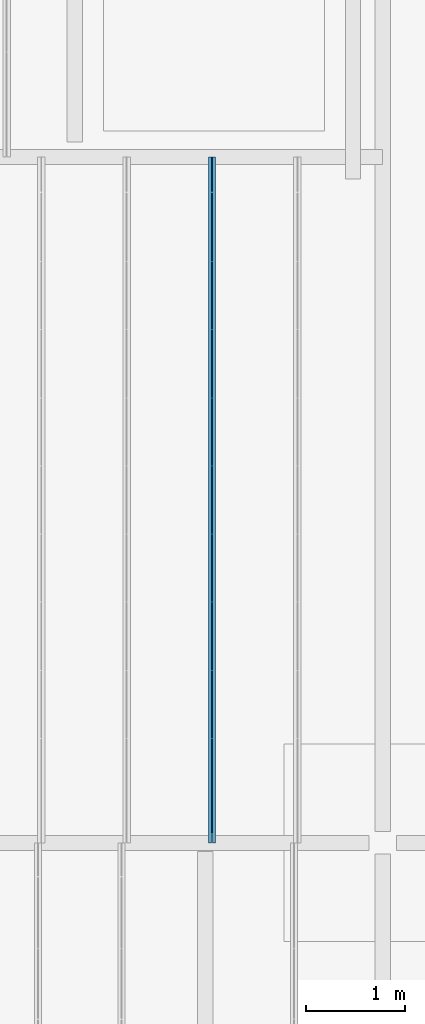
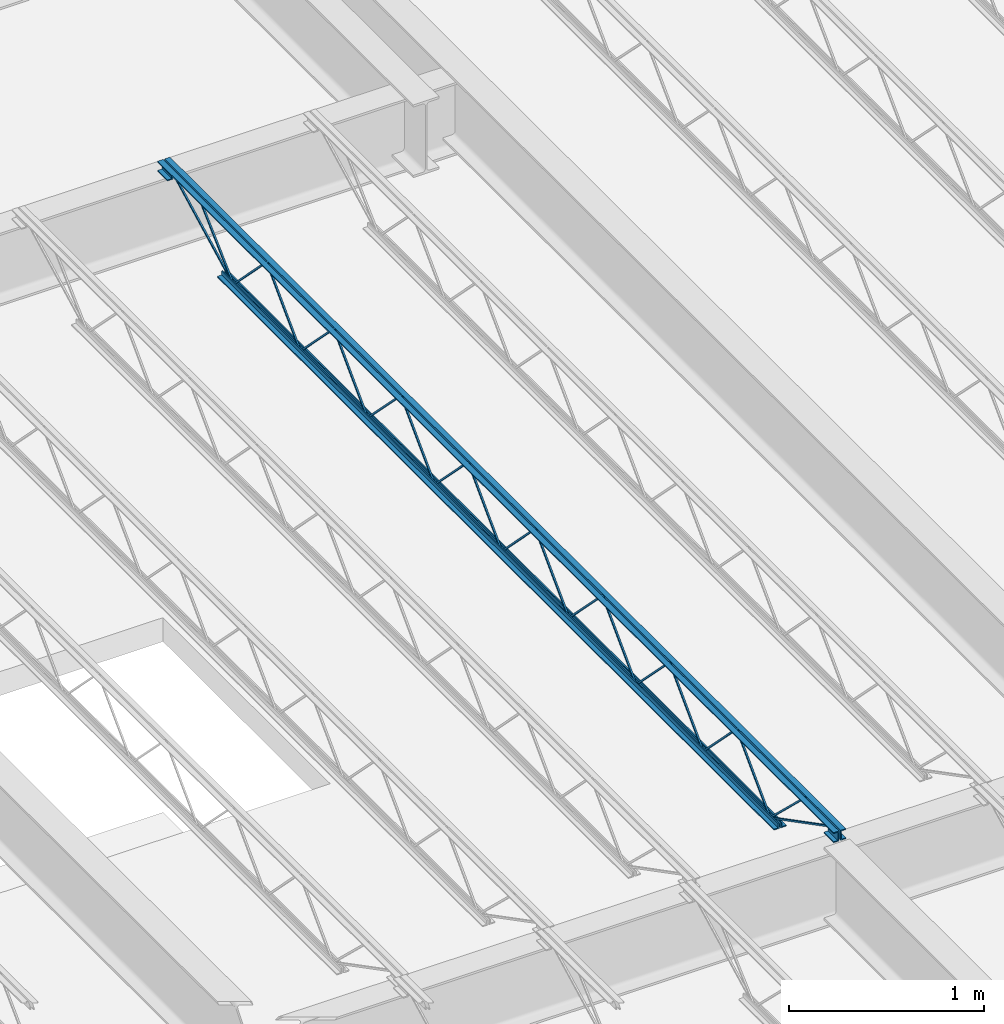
# One storey, part 27 of 75: 1 beam.
"""IFC2X3 building model written with IfcOpenShell, lengths in metres."""

from ifc_helpers import new_model, entity, si_unit, converted_unit, frame, origin, place, context, project, spatial, face_set, surface_model, element, save


model = new_model("IFC2X3")

# Units and contexts
model_context = context("Model", 3, precision=1e-09, world=origin())
plan_context = context("Plan", 3, precision=1e-09, world=origin())
ifc_project = project(units=[si_unit("LENGTHUNIT", "METRE"), si_unit("AREAUNIT", "SQUARE_METRE"), si_unit("VOLUMEUNIT", "CUBIC_METRE"), converted_unit("PLANEANGLEUNIT", "DEGREE", entity("IfcRatioMeasure", 0.01745329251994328), si_unit("PLANEANGLEUNIT", "RADIAN"), dimensions=[0, 0, 0, 0, 0, 0, 0]), si_unit("TIMEUNIT", "SECOND")], contexts=[model_context, plan_context])

# Site, building, storey
site_placement = place(None, origin())
site = spatial("IfcSite", under=ifc_project, at=site_placement, Name="Default", CompositionType="ELEMENT")
building_placement = place(site_placement, origin())
building = spatial("IfcBuilding", under=site, at=building_placement, CompositionType="ELEMENT")
storey_placement = place(building_placement, origin())
storey = spatial("IfcBuildingStorey", under=building, at=storey_placement, Name="First Floor", CompositionType="ELEMENT", Elevation=-3.531500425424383e-13)

# Beam
beam_placement = place(storey_placement, frame((-16.64339999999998, 18.61003029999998, 4.112000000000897), z_axis=(0.0, 0.0, 1.0), x_axis=(-1.0, 0.0, 0.0)))
element("IfcBeam", 1, at=beam_placement, inside=storey, Name="M_K-Series Bar Joist-Rod Web:14K1:14K1", ObjectType="M_K-Series Bar Joist-Rod Web:14K1", context=model_context, shape_type="SurfaceModel", body=[
    surface_model("IfcFaceBasedSurfaceModel", [(-0.03200000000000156, -2.08975000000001, 0.01110000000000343), (-0.04149999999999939, -2.08975000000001, 0.01110000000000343), (-0.04149999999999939, -2.08975000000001, 0.001600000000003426), (-0.03200000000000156, -2.08975000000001, 0.001600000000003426), (-0.04150000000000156, -2.088563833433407, 0.01110000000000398), (-0.03200000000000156, -2.088563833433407, 0.01110000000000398), (-0.0414999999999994, -2.084586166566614, 0.001600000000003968), (-0.04149999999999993, -1.746498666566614, 0.3449000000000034), (-0.04149999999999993, -1.744126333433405, 0.3449000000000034), (-0.04150000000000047, -1.40603883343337, 0.001600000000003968), (-0.04150000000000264, -1.400875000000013, 0.001600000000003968), (-0.04150000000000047, -1.400875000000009, 0.01110000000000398), (-0.04150000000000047, -1.402061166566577, 0.01110000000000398), (-0.04149999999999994, -1.740148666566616, 0.3544000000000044), (-0.04149999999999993, -1.750476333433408, 0.3544000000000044), (-0.0319999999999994, -2.084586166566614, 0.001600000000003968), (-0.03200000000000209, -1.746498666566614, 0.3449000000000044), (-0.0320000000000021, -1.744126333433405, 0.3449000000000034), (-0.03200000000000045, -1.40603883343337, 0.001600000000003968), (-0.03200000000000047, -1.400875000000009, 0.001600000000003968), (-0.03200000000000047, -1.400875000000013, 0.01110000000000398), (-0.03200000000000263, -1.402061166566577, 0.01110000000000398), (-0.0320000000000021, -1.740148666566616, 0.3544000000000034), (-0.03200000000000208, -1.750476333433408, 0.3544000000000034), (-0.03200000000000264, -2.778625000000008, 0.01110000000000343), (-0.04150000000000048, -2.778625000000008, 0.01110000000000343), (-0.04150000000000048, -2.778625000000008, 0.001600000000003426), (-0.03200000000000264, -2.778625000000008, 0.001600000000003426), (-0.04150000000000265, -2.777438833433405, 0.01110000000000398), (-0.03200000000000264, -2.777438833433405, 0.01110000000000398), (-0.04149999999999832, -2.773461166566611, 0.001600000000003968), (-0.04149999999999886, -2.435373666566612, 0.3449000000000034), (-0.04149999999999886, -2.433001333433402, 0.3449000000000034), (-0.04149999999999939, -2.094913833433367, 0.001600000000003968), (-0.04150000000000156, -2.089750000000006, 0.001600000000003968), (-0.04150000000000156, -2.089750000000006, 0.01110000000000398), (-0.04150000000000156, -2.090936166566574, 0.01110000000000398), (-0.04150000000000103, -2.429023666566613, 0.3544000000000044), (-0.04150000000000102, -2.439351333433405, 0.3544000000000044), (-0.03200000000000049, -2.773461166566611, 0.001600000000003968), (-0.03200000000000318, -2.435373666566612, 0.3449000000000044), (-0.03200000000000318, -2.433001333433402, 0.3449000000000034), (-0.03200000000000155, -2.094913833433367, 0.001600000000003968), (-0.03200000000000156, -2.089750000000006, 0.001600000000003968), (-0.03199999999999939, -2.089750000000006, 0.01110000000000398), (-0.03200000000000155, -2.090936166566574, 0.01110000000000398), (-0.03200000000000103, -2.429023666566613, 0.3544000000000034), (-0.03200000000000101, -2.439351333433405, 0.3544000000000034), (-0.03200000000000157, -3.467500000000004, 0.01110000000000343), (-0.04149999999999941, -3.467500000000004, 0.01110000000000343), (-0.04149999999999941, -3.467500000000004, 0.001600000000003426), (-0.03200000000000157, -3.467500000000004, 0.001600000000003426), (-0.04150000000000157, -3.466313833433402, 0.01110000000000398), (-0.03200000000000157, -3.466313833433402, 0.01110000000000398), (-0.04149999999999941, -3.462336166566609, 0.001600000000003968), (-0.04149999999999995, -3.124248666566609, 0.3449000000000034), (-0.04149999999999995, -3.121876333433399, 0.3449000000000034), (-0.04150000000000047, -2.783788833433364, 0.001600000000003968), (-0.04150000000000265, -2.778625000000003, 0.001600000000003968), (-0.04150000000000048, -2.778625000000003, 0.01110000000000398), (-0.04150000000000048, -2.779811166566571, 0.01110000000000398), (-0.04149999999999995, -3.11789866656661, 0.3544000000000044), (-0.04149999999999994, -3.128226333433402, 0.3544000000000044), (-0.03199999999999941, -3.462336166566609, 0.001600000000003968), (-0.0320000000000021, -3.124248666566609, 0.3449000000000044), (-0.03200000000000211, -3.121876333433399, 0.3449000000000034), (-0.03200000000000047, -2.783788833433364, 0.001600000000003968), (-0.03200000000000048, -2.778625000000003, 0.001600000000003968), (-0.03200000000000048, -2.778625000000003, 0.01110000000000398), (-0.03200000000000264, -2.779811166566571, 0.01110000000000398), (-0.03200000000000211, -3.11789866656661, 0.3544000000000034), (-0.0320000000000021, -3.128226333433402, 0.3544000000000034), (-0.03200000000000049, -4.156375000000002, 0.01110000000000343), (-0.04149999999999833, -4.156375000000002, 0.01110000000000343), (-0.04149999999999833, -4.156375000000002, 0.001600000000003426), (-0.03200000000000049, -4.156375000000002, 0.001600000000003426), (-0.0415000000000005, -4.155188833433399, 0.01110000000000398), (-0.03200000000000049, -4.155188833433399, 0.01110000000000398), (-0.04149999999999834, -4.151211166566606, 0.001600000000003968), (-0.04149999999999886, -3.813123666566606, 0.3449000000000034), (-0.04149999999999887, -3.810751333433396, 0.3449000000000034), (-0.0414999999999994, -3.472663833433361, 0.001600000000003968), (-0.04150000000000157, -3.4675, 0.001600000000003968), (-0.04149999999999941, -3.4675, 0.01110000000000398), (-0.04149999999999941, -3.468686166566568, 0.01110000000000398), (-0.04149999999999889, -3.806773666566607, 0.3544000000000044), (-0.04149999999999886, -3.817101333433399, 0.3544000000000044), (-0.03199999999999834, -4.151211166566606, 0.001600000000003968), (-0.03200000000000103, -3.813123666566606, 0.3449000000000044), (-0.03200000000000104, -3.810751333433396, 0.3449000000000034), (-0.03199999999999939, -3.472663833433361, 0.001600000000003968), (-0.0319999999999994, -3.4675, 0.001600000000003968), (-0.0319999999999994, -3.4675, 0.01110000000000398), (-0.03200000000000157, -3.468686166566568, 0.01110000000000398), (-0.03200000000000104, -3.806773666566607, 0.3544000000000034), (-0.03200000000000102, -3.817101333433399, 0.3544000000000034), (-0.03200000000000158, -4.845249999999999, 0.01110000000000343), (-0.04149999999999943, -4.845249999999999, 0.01110000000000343), (-0.04149999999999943, -4.845249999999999, 0.001600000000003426), (-0.03200000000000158, -4.845249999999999, 0.001600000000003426), (-0.04150000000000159, -4.844063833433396, 0.01110000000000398), (-0.03200000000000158, -4.844063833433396, 0.01110000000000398), (-0.04149999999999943, -4.840086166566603, 0.001600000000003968), (-0.04149999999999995, -4.501998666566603, 0.3449000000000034), (-0.04149999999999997, -4.499626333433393, 0.3449000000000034), (-0.04150000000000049, -4.161538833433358, 0.001600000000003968), (-0.0415000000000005, -4.156374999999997, 0.001600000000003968), (-0.0415000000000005, -4.156374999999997, 0.01110000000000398), (-0.0415000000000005, -4.157561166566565, 0.01110000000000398), (-0.04149999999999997, -4.495648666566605, 0.3544000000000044), (-0.04149999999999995, -4.505976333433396, 0.3544000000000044), (-0.03199999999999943, -4.840086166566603, 0.001600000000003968), (-0.03200000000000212, -4.501998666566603, 0.3449000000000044), (-0.03200000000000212, -4.499626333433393, 0.3449000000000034), (-0.03200000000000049, -4.161538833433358, 0.001600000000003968), (-0.03200000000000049, -4.156374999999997, 0.001600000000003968), (-0.03199999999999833, -4.156374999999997, 0.01110000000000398), (-0.03200000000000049, -4.157561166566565, 0.01110000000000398), (-0.03200000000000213, -4.495648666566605, 0.3544000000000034), (-0.03200000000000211, -4.505976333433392, 0.3544000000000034), (-0.03200000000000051, -5.534124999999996, 0.01110000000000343), (-0.04149999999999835, -5.534124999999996, 0.01110000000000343), (-0.04149999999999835, -5.534124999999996, 0.001600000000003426), (-0.03200000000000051, -5.534124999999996, 0.001600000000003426), (-0.04150000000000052, -5.532938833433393, 0.01110000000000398), (-0.03200000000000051, -5.532938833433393, 0.01110000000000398), (-0.04149999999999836, -5.5289611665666, 0.001600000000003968), (-0.04149999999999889, -5.1908736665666, 0.3449000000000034), (-0.04149999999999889, -5.188501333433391, 0.3449000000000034), (-0.04149999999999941, -4.850413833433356, 0.001600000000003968), (-0.04150000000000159, -4.845249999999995, 0.001600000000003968), (-0.04149999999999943, -4.845249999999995, 0.01110000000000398), (-0.04149999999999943, -4.846436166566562, 0.01110000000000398), (-0.04149999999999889, -5.184523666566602, 0.3544000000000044), (-0.04149999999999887, -5.194851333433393, 0.3544000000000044), (-0.03199999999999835, -5.5289611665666, 0.001600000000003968), (-0.03200000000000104, -5.1908736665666, 0.3449000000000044), (-0.03200000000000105, -5.188501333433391, 0.3449000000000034), (-0.03199999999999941, -4.850413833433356, 0.001600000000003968), (-0.03199999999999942, -4.845249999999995, 0.001600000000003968), (-0.03199999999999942, -4.845249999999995, 0.01110000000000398), (-0.03200000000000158, -4.846436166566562, 0.01110000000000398), (-0.03200000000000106, -5.184523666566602, 0.3544000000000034), (-0.03200000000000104, -5.194851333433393, 0.3544000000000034), (-0.0320000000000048, -1.400875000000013, 0.01109999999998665), (-0.04150000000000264, -1.400875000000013, 0.01109999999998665), (-0.04150000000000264, -1.400875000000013, 0.001599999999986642), (-0.0320000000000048, -1.400875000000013, 0.001599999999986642), (-0.04150000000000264, -1.39968883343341, 0.01109999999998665), (-0.03200000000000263, -1.39968883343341, 0.01109999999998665), (-0.04150000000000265, -1.395711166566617, 0.001599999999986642), (-0.04150000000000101, -1.057623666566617, 0.3448999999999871), (-0.04150000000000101, -1.055251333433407, 0.3448999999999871), (-0.04150000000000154, -0.7171638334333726, 0.001599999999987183), (-0.04150000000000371, -0.7120000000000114, 0.001599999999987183), (-0.04150000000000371, -0.7120000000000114, 0.01109999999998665), (-0.04150000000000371, -0.7131861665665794, 0.01109999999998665), (-0.04150000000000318, -1.051273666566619, 0.3543999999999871), (-0.04150000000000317, -1.06160133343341, 0.3543999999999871), (-0.03200000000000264, -1.395711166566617, 0.001599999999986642), (-0.03200000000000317, -1.057623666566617, 0.3448999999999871), (-0.03200000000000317, -1.055251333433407, 0.3448999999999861), (-0.03200000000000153, -0.7171638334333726, 0.001599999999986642), (-0.03200000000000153, -0.7120000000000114, 0.001599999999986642), (-0.03200000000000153, -0.7120000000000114, 0.01109999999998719), (-0.03200000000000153, -0.7131861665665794, 0.01109999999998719), (-0.03200000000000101, -1.051273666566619, 0.3543999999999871), (-0.03200000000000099, -1.06160133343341, 0.3543999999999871), (-0.0320000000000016, -6.222999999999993, 0.01110000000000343), (-0.04149999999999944, -6.222999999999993, 0.01110000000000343), (-0.04149999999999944, -6.222999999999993, 0.001600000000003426), (-0.0320000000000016, -6.222999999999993, 0.001600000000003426), (-0.04150000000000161, -6.221813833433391, 0.01110000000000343), (-0.0320000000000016, -6.221813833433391, 0.01110000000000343), (-0.04149999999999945, -6.217836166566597, 0.001600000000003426), (-0.04149999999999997, -5.879748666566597, 0.3449000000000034), (-0.04149999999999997, -5.877376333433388, 0.3449000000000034), (-0.04149999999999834, -5.539288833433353, 0.001600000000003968), (-0.04150000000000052, -5.534124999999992, 0.001600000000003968), (-0.04150000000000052, -5.534124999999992, 0.01110000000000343), (-0.04150000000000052, -5.53531116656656, 0.01110000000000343), (-0.04149999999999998, -5.873398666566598, 0.3544000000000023), (-0.04149999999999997, -5.883726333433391, 0.3544000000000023), (-0.03199999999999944, -6.217836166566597, 0.001600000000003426), (-0.03200000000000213, -5.879748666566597, 0.3449000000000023), (-0.03200000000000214, -5.877376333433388, 0.3449000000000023), (-0.0320000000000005, -5.539288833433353, 0.001600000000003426), (-0.03200000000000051, -5.534124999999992, 0.001600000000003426), (-0.03199999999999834, -5.534124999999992, 0.01110000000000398), (-0.03200000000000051, -5.53531116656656, 0.01110000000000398), (-0.03200000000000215, -5.873398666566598, 0.3544000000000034), (-0.03200000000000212, -5.883726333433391, 0.3544000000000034), (-0.04150000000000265, 0.0, 0.3559999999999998), (-0.07350000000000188, 0.0, 0.3559999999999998), (-0.07350000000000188, 0.0, 0.349499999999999), (-0.04800000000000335, 0.0, 0.349499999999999), (-0.04800000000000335, 0.0, 0.3239999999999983), (-0.04150000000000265, 0.0, 0.3239999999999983), (-0.03200000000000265, 0.0, 0.3559999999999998), (-0.03200000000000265, 0.0, 0.3239999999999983), (-0.02550000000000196, 0.0, 0.3239999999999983), (-0.02550000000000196, 0.0, 0.349499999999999), (0.0, 0.0, 0.349499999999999), (0.0, 0.0, 0.3559999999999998), (-0.04150000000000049, -6.934999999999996, 0.3559999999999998), (-0.07349999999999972, -6.934999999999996, 0.3559999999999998), (-0.07349999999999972, -6.934999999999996, 0.349499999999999), (-0.04800000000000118, -6.934999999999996, 0.349499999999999), (-0.04800000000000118, -6.934999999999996, 0.3239999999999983), (-0.04150000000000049, -6.934999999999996, 0.3239999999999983), (-0.03200000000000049, -6.934999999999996, 0.3559999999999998), (-0.03200000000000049, -6.934999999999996, 0.3239999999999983), (-0.02549999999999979, -6.934999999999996, 0.3239999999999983), (-0.02549999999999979, -6.934999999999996, 0.349499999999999), (0.0, -6.934999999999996, 0.349499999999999), (0.0, -6.934999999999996, 0.3559999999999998), (-0.03200000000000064, -6.83500000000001, 0.2924999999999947), (0.0, -6.83500000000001, 0.2924999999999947), (0.0, -6.83500000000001, 0.2989999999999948), (-0.02549999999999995, -6.83500000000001, 0.2989999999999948), (-0.02549999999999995, -6.83500000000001, 0.3239999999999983), (-0.03200000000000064, -6.83500000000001, 0.3239999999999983), (-0.07349999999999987, -6.83500000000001, 0.2924999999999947), (-0.04150000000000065, -6.83500000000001, 0.2924999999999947), (-0.04150000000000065, -6.83500000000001, 0.3239999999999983), (-0.04800000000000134, -6.83500000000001, 0.3239999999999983), (-0.04800000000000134, -6.83500000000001, 0.2989999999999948), (-0.07349999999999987, -6.83500000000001, 0.2989999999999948), (-0.03200000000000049, -6.934999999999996, 0.2924999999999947), (0.0, -6.934999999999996, 0.2924999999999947), (0.0, -6.934999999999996, 0.2989999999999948), (-0.02549999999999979, -6.934999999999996, 0.2989999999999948), (-0.07349999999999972, -6.934999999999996, 0.2924999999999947), (-0.04150000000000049, -6.934999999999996, 0.2924999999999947), (-0.04800000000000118, -6.934999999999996, 0.2989999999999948), (-0.07349999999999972, -6.934999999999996, 0.2989999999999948), (-0.04150000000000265, 0.0, 0.2924999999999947), (-0.04800000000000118, 0.0, 0.3239999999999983), (-0.04800000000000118, 0.0, 0.2989999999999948), (-0.07350000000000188, 0.0, 0.2989999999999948), (-0.07350000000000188, 0.0, 0.2924999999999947), (-0.03200000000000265, 0.0, 0.2924999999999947), (0.0, 0.0, 0.2924999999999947), (0.0, 0.0, 0.2989999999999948), (-0.02550000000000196, 0.0, 0.2989999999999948), (-0.0415000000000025, -0.0999999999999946, 0.2924999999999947), (-0.0415000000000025, -0.0999999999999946, 0.3239999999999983), (-0.04800000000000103, -0.0999999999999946, 0.3239999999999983), (-0.04800000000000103, -0.0999999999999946, 0.2989999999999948), (-0.07350000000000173, -0.0999999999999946, 0.2989999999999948), (-0.07350000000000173, -0.0999999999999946, 0.2924999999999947), (-0.03200000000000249, -0.0999999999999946, 0.2924999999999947), (0.0, -0.0999999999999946, 0.2924999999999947), (0.0, -0.0999999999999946, 0.2989999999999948), (-0.02550000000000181, -0.0999999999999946, 0.2989999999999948), (-0.02550000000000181, -0.0999999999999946, 0.3239999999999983), (-0.03200000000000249, -0.0999999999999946, 0.3239999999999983), (-0.0415000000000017, -0.6119999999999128, 0.0), (-0.0415000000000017, -0.6119999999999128, 0.03199999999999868), (-0.04800000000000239, -0.6119999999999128, 0.03199999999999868), (-0.04800000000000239, -0.6119999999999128, 0.006499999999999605), (-0.07350000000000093, -0.6119999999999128, 0.006499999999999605), (-0.07350000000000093, -0.6119999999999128, 0.0), (-0.03200000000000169, -0.6119999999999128, 0.0), (0.0, -0.6119999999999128, 0.0), (0.0, -0.6119999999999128, 0.006499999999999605), (-0.02550000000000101, -0.6119999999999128, 0.006499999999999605), (-0.02550000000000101, -0.6119999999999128, 0.03199999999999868), (-0.03200000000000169, -0.6119999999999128, 0.03199999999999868), (-0.04150000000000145, -6.322999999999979, 0.0), (-0.04150000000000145, -6.322999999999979, 0.03199999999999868), (-0.04800000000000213, -6.322999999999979, 0.03199999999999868), (-0.04800000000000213, -6.322999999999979, 0.006499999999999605), (-0.07350000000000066, -6.322999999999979, 0.006499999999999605), (-0.07350000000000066, -6.322999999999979, 0.0), (-0.03200000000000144, -6.322999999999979, 0.0), (0.0, -6.322999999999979, 0.0), (0.0, -6.322999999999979, 0.006499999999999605), (-0.02550000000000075, -6.322999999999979, 0.006499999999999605), (-0.02550000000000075, -6.322999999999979, 0.03199999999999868), (-0.03200000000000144, -6.322999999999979, 0.03199999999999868), (-0.03199999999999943, -6.220811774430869, 0.01056594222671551), (-0.04149999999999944, -6.220811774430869, 0.01056594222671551), (-0.04149999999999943, -6.225188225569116, 0.002134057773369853), (-0.03200000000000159, -6.225188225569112, 0.002134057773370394), (-0.03199999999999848, -6.83384071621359, 0.3287499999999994), (-0.03200000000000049, -6.934999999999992, 0.3287499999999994), (-0.03200000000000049, -6.934999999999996, 0.3192499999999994), (-0.03200000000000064, -6.836159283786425, 0.3192499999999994), (-0.04149999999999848, -6.836159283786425, 0.3192499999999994), (-0.04149999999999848, -6.83384071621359, 0.3287499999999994), (-0.04149999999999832, -6.934999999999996, 0.3287499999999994), (-0.04150000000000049, -6.934999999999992, 0.3192499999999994), (-0.03200000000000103, -6.587394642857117, 0.341700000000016), (-0.04149999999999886, -6.587394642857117, 0.341700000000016), (-0.04149999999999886, -6.587394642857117, 0.332200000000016), (-0.03200000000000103, -6.587394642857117, 0.332200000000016), (-0.04150000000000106, -6.572812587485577, 0.341700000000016), (-0.03200000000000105, -6.572812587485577, 0.341700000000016), (-0.04149999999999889, -6.576576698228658, 0.332200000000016), (-0.04149999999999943, -6.226253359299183, 0.002889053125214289), (-0.04149999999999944, -6.219746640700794, 0.009810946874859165), (-0.03199999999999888, -6.576576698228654, 0.332200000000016), (-0.03200000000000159, -6.226253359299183, 0.002889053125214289), (-0.03199999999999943, -6.219746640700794, 0.009810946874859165), (-0.0320000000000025, -0.09781177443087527, 0.3197840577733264), (-0.03200000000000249, -0.1021882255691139, 0.3282159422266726), (-0.04150000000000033, -0.1021882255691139, 0.3282159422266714), (-0.04150000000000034, -0.09781177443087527, 0.3197840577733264), (-0.03200000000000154, -0.7098117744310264, 0.002134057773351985), (-0.03200000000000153, -0.7141882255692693, 0.01056594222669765), (-0.04149999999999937, -0.7141882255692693, 0.01056594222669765), (-0.04149999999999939, -0.7098117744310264, 0.002134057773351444), (-0.03199999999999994, -0.3497651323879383, 0.3462172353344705), (-0.0320000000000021, -0.3563312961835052, 0.3530827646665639), (-0.0415000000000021, -0.3563312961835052, 0.3530827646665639), (-0.04149999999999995, -0.3497651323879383, 0.3462172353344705), (-0.03199999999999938, -0.7087169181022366, 0.00291723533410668), (-0.03200000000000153, -0.7152830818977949, 0.009782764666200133), (-0.04150000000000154, -0.7152830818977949, 0.009782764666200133), (-0.04149999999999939, -0.7087169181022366, 0.00291723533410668)], [face_set([[[0, 1, 2, 3]], [[1, 4, 5, 0]], [[2, 6, 7, 8, 9, 10, 11, 12, 13, 14, 4, 1]], [[3, 2, 6, 15]], [[0, 3, 15, 16, 17, 18, 19, 20, 21, 22, 23, 5]], [[4, 5, 23, 14]], [[15, 16, 7, 6]], [[14, 13, 22, 23]], [[16, 7, 8, 17]], [[13, 12, 21, 22]], [[17, 8, 9, 18]], [[20, 11, 10, 19]], [[12, 11, 20, 21]], [[18, 9, 10, 19]]]), face_set([[[24, 25, 26, 27]], [[25, 28, 29, 24]], [[26, 30, 31, 32, 33, 34, 35, 36, 37, 38, 28, 25]], [[27, 26, 30, 39]], [[24, 27, 39, 40, 41, 42, 43, 44, 45, 46, 47, 29]], [[28, 29, 47, 38]], [[39, 40, 31, 30]], [[38, 37, 46, 47]], [[40, 31, 32, 41]], [[37, 36, 45, 46]], [[41, 32, 33, 42]], [[44, 35, 34, 43]], [[36, 35, 44, 45]], [[42, 33, 34, 43]]]), face_set([[[48, 49, 50, 51]], [[49, 52, 53, 48]], [[50, 54, 55, 56, 57, 58, 59, 60, 61, 62, 52, 49]], [[51, 50, 54, 63]], [[48, 51, 63, 64, 65, 66, 67, 68, 69, 70, 71, 53]], [[52, 53, 71, 62]], [[63, 64, 55, 54]], [[62, 61, 70, 71]], [[64, 55, 56, 65]], [[61, 60, 69, 70]], [[65, 56, 57, 66]], [[68, 59, 58, 67]], [[60, 59, 68, 69]], [[66, 57, 58, 67]]]), face_set([[[72, 73, 74, 75]], [[73, 76, 77, 72]], [[74, 78, 79, 80, 81, 82, 83, 84, 85, 86, 76, 73]], [[75, 74, 78, 87]], [[72, 75, 87, 88, 89, 90, 91, 92, 93, 94, 95, 77]], [[76, 77, 95, 86]], [[87, 88, 79, 78]], [[86, 85, 94, 95]], [[88, 79, 80, 89]], [[85, 84, 93, 94]], [[89, 80, 81, 90]], [[92, 83, 82, 91]], [[84, 83, 92, 93]], [[90, 81, 82, 91]]]), face_set([[[96, 97, 98, 99]], [[97, 100, 101, 96]], [[98, 102, 103, 104, 105, 106, 107, 108, 109, 110, 100, 97]], [[99, 98, 102, 111]], [[96, 99, 111, 112, 113, 114, 115, 116, 117, 118, 119, 101]], [[100, 101, 119, 110]], [[111, 112, 103, 102]], [[110, 109, 118, 119]], [[112, 103, 104, 113]], [[109, 108, 117, 118]], [[113, 104, 105, 114]], [[116, 107, 106, 115]], [[108, 107, 116, 117]], [[114, 105, 106, 115]]]), face_set([[[120, 121, 122, 123]], [[121, 124, 125, 120]], [[122, 126, 127, 128, 129, 130, 131, 132, 133, 134, 124, 121]], [[123, 122, 126, 135]], [[120, 123, 135, 136, 137, 138, 139, 140, 141, 142, 143, 125]], [[124, 125, 143, 134]], [[135, 136, 127, 126]], [[134, 133, 142, 143]], [[136, 127, 128, 137]], [[133, 132, 141, 142]], [[137, 128, 129, 138]], [[140, 131, 130, 139]], [[132, 131, 140, 141]], [[138, 129, 130, 139]]]), face_set([[[144, 145, 146, 147]], [[145, 148, 149, 144]], [[146, 150, 151, 152, 153, 154, 155, 156, 157, 158, 148, 145]], [[147, 146, 150, 159]], [[144, 147, 159, 160, 161, 162, 163, 164, 165, 166, 167, 149]], [[148, 149, 167, 158]], [[159, 160, 151, 150]], [[158, 157, 166, 167]], [[160, 151, 152, 161]], [[157, 156, 165, 166]], [[161, 152, 153, 162]], [[164, 155, 154, 163]], [[156, 155, 164, 165]], [[162, 153, 154, 163]]]), face_set([[[168, 169, 170, 171]], [[169, 172, 173, 168]], [[170, 174, 175, 176, 177, 178, 179, 180, 181, 182, 172, 169]], [[171, 170, 174, 183]], [[168, 171, 183, 184, 185, 186, 187, 188, 189, 190, 191, 173]], [[172, 173, 191, 182]], [[183, 184, 175, 174]], [[182, 181, 190, 191]], [[184, 175, 176, 185]], [[181, 180, 189, 190]], [[185, 176, 177, 186]], [[188, 179, 178, 187]], [[180, 179, 188, 189]], [[186, 177, 178, 187]]]), face_set([[[192, 193, 194, 195, 196, 197]], [[198, 199, 200, 201, 202, 203]], [[204, 205, 206, 207, 208, 209]], [[210, 211, 212, 213, 214, 215]], [[197, 192, 204, 209]], [[196, 197, 209, 208]], [[195, 207, 208, 196]], [[194, 195, 207, 206]], [[193, 205, 206, 194]], [[192, 204, 205, 193]], [[203, 215, 210, 198]], [[202, 203, 215, 214]], [[201, 202, 214, 213]], [[200, 201, 213, 212]], [[199, 200, 212, 211]], [[198, 210, 211, 199]]]), face_set([[[216, 217, 218, 219, 220, 221]], [[222, 223, 224, 225, 226, 227]], [[228, 229, 230, 231, 212, 211]], [[232, 233, 209, 208, 234, 235]], [[221, 211, 228, 216]], [[220, 212, 211, 221]], [[219, 220, 212, 231]], [[218, 230, 231, 219]], [[217, 218, 230, 229]], [[216, 217, 229, 228]], [[227, 235, 232, 222]], [[226, 234, 235, 227]], [[225, 208, 234, 226]], [[224, 209, 208, 225]], [[223, 224, 209, 233]], [[222, 223, 233, 232]]]), face_set([[[236, 197, 237, 238, 239, 240]], [[241, 242, 243, 244, 200, 199]], [[245, 246, 247, 248, 249, 250]], [[251, 252, 253, 254, 255, 256]], [[240, 236, 245, 250]], [[239, 249, 250, 240]], [[238, 248, 249, 239]], [[237, 247, 248, 238]], [[197, 246, 247, 237]], [[236, 197, 246, 245]], [[199, 256, 251, 241]], [[200, 255, 256, 199]], [[244, 200, 255, 254]], [[243, 253, 254, 244]], [[242, 243, 253, 252]], [[241, 242, 252, 251]]]), face_set([[[257, 258, 259, 260, 261, 262]], [[263, 264, 265, 266, 267, 268]], [[269, 270, 271, 272, 273, 274]], [[275, 276, 277, 278, 279, 280]], [[262, 257, 269, 274]], [[261, 273, 274, 262]], [[260, 272, 273, 261]], [[259, 271, 272, 260]], [[258, 270, 271, 259]], [[257, 258, 270, 269]], [[268, 280, 275, 263]], [[267, 279, 280, 268]], [[266, 267, 279, 278]], [[265, 277, 278, 266]], [[264, 265, 277, 276]], [[263, 264, 276, 275]]]), face_set([[[281, 282, 283, 284]], [[284, 281, 285, 286, 287, 288]], [[283, 284, 288, 289]], [[282, 290, 291, 292, 289, 283]], [[281, 285, 290, 282]], [[286, 291, 292, 287]], [[289, 288, 287, 292]], [[285, 286, 291, 290]]]), face_set([[[293, 294, 295, 296]], [[294, 297, 298, 293]], [[295, 299, 300, 301, 297, 294]], [[296, 295, 299, 302]], [[293, 296, 302, 303, 304, 298]], [[304, 301, 300, 303]], [[297, 301, 304, 298]], [[302, 299, 300, 303]]]), face_set([[[305, 306, 307, 308]], [[309, 310, 311, 312]], [[308, 312, 309, 305]], [[307, 311, 312, 308]], [[306, 307, 311, 310]], [[305, 306, 310, 309]]]), face_set([[[313, 314, 315, 316]], [[317, 318, 319, 320]], [[316, 320, 317, 313]], [[315, 319, 320, 316]], [[314, 315, 319, 318]], [[313, 314, 318, 317]]])]),
])

save(model, "model.ifc")
